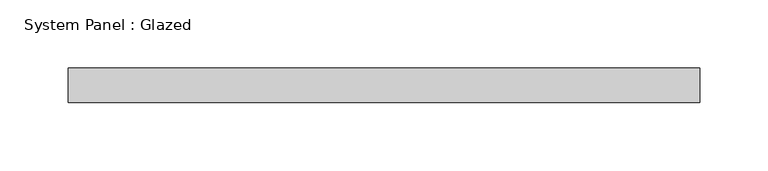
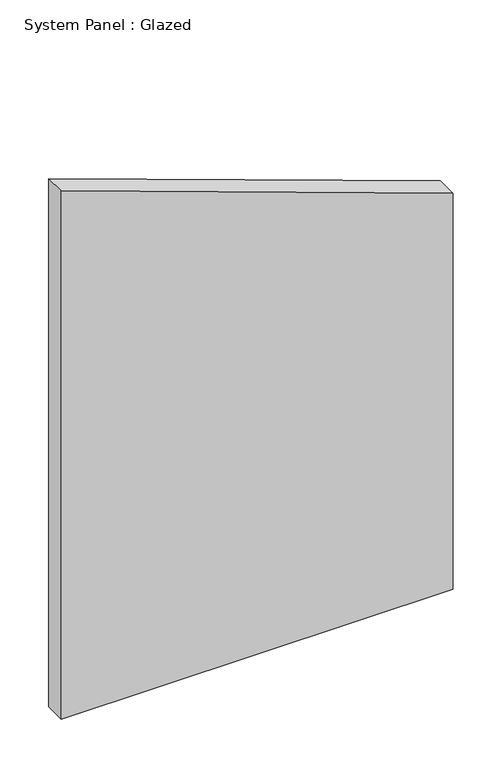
"""IFC4 building model written with IfcOpenShell, lengths in millimetres: plate geometry, System Panel : Glazed."""

from ifc_helpers import new_model, si_unit, point, frame, frame_2d, origin, place, context, project, spatial, polyline, circle_curve, trimmed, segment, composite_curve, outline, extrude, source, transform, mapped, element, save


def system_panel_glazed_894d5202(model_context):
    return source(origin(), model_context, "Body", "SweptSolid", [
        extrude(outline(composite_curve([segment(polyline([(0.0, -231.775), (0.0, 231.775), (495.4565181, 231.775)]), True, "CONTINUOUS"), segment(trimmed(circle_curve(frame_2d((-2861.0640133, -1224.0941072)), 3658.6588985), [point((495.4565181, 231.775))], [point((660.4538022, -231.775))], False, "CARTESIAN"), True, "CONTINUOUS"), segment(polyline([(660.4538022, -231.775), (0.0, -231.775)]), True, "CONTINUOUS")], self_intersect=False)), frame((0.0, 19.05, 0.0), z_axis=(0.0, 1.0, 0.0), x_axis=(0.0, 0.0, 1.0)), (0.0, 0.0, 1.0), 25.4),
    ])


if __name__ == "__main__":
    model = new_model("IFC4")
    model_context = context("Model", 3, world=origin())
    ifc_project = project(units=[si_unit("LENGTHUNIT", "METRE", prefix="MILLI")], contexts=[model_context])
    site = spatial("IfcSite", under=ifc_project)
    building = spatial("IfcBuilding", under=site)
    placement = place(None, origin())
    system_panel_glazed_shape = system_panel_glazed_894d5202(model_context)
    element("IfcPlate", 1, ObjectType="System Panel : Glazed", at=placement, inside=building, context=model_context, shape_type="MappedRepresentation", body=[
        mapped(system_panel_glazed_shape, transform((0.0, 0.0, 0.0), x_axis=(1.0, 0.0, 0.0), y_axis=(0.0, 1.0, 0.0), z_axis=(0.0, 0.0, 1.0))),
    ])
    save(model, "model.ifc")
